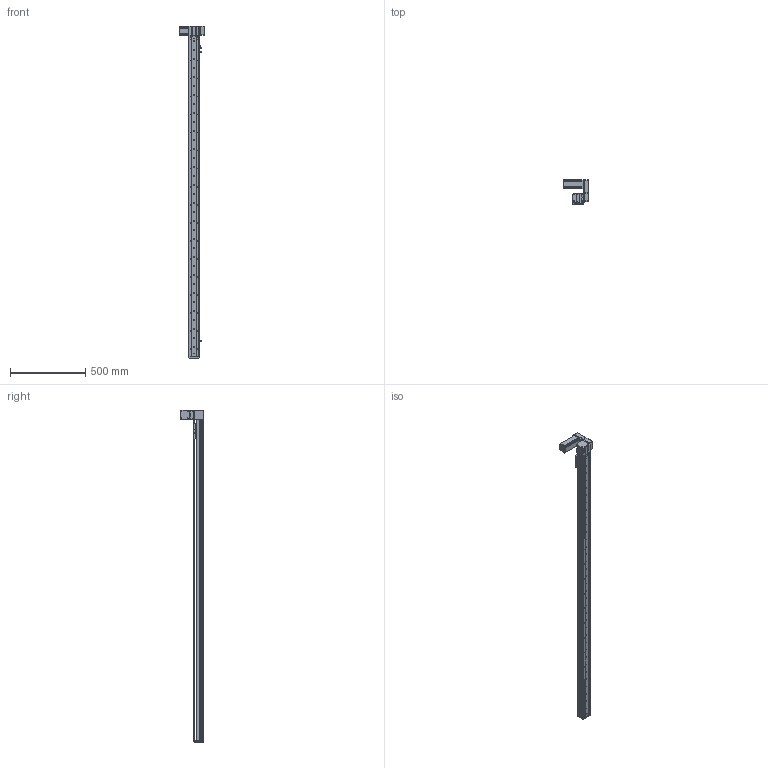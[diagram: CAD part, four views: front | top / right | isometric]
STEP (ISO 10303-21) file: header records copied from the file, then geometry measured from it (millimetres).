
FILE_DESCRIPTION (( 'STEP AP214' ), '1' );
FILE_NAME ('KSD68BS-S1950-MLU-CM.STEP', '2019-11-06T07:12:55', ( '微软用户' ), ( '微软中国' ), 'SwSTEP 2.0', 'SolidWorks 2014', '' );
FILE_SCHEMA (( 'AUTOMOTIVE_DESIGN' ));
Length unit declared in the file: millimetre
Products named in the file (11): 68宽马达安装板连板上折同步带; 68宽单导轨半封闭同步带主动轮座左; 68单导轨同步带半封闭端板; KSD68BS 1950俴最裔啣圉猾敕; 覜茼え68遵圉猾敕; KSD68BS半封闭同步带传动导轨座; U倰嫖萇EEㄜSX672; 台达ECMA－C20604AS伺服电机（400W); KSD68BS 1950俴最菁啣圉猾敕; KSD68BS-S1950-MLU-CM; 悵誘欶奻狟殏
Assembly tree (12 placements, depth 2):
  KSD68BS-S1950-MLU-CM
    KSD68BS 1950俴最菁啣圉猾敕
    台达ECMA－C20604AS伺服电机（400W)
    U倰嫖萇EEㄜSX672  x3
    KSD68BS半封闭同步带传动导轨座
    覜茼え68遵圉猾敕
    KSD68BS 1950俴最裔啣圉猾敕
    68单导轨同步带半封闭端板
    68宽单导轨半封闭同步带主动轮座左
    68宽马达安装板连板上折同步带
    悵誘欶奻狟殏
Bounding box: 167.2 x 159.5 x 2212 mm (x, y, z)
Volume: 3569447.6 mm3; surface area: 1349013.9 mm2
Topology: 13 solids, 13 shells, 1678 faces, 4946 edges, 3226 vertices
Faces by surface type: cylinder 900, plane 695, cone 83
Entity records: 66694 total; most frequent: CARTESIAN_POINT 13642, ORIENTED_EDGE 8644, DIRECTION 8304, EDGE_CURVE 4322, AXIS2_PLACEMENT_3D 3000, VERTEX_POINT 2850, VECTOR 2304, LINE 2304
